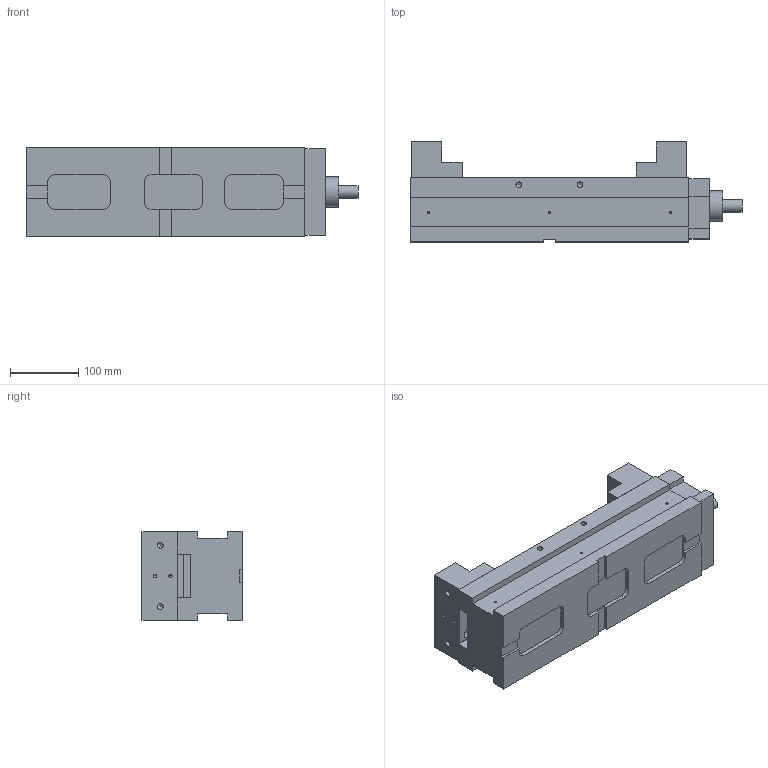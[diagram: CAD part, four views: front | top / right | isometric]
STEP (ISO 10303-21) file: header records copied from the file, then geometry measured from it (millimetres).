
FILE_DESCRIPTION(('STEP AP214'), '1');
FILE_NAME('BB.VS.130.11.003 捘', '', ('UNSPECIFIED'), ('UNSPECIFIED'), 'ASCON STEP Converter 1.6', 'ASCON Math Kernel', '');
FILE_SCHEMA(('AUTOMOTIVE_DESIGN { 1 0 10303 214 3 1 1}'));
Length unit declared in the file: millimetre
Products named in the file (3): BB.VS.130.11.003 捘; BB.VS.130.21.030/002; BB.VS.130.11.003.01
Assembly tree (3 placements, depth 2):
  BB.VS.130.11.003 捘
    BB.VS.130.21.030/002  x2
    BB.VS.130.11.003.01
Bounding box: 488 x 147 x 131 mm (x, y, z)
Volume: 5232440.3 mm3; surface area: 365004.7 mm2
Topology: 3 solids, 3 shells, 184 faces, 468 edges, 304 vertices
Faces by surface type: plane 106, cylinder 56, cone 22
Full cylindrical faces by diameter (mm): 3.3 x6, 5 x8, 8.5 x8, 13 x8, 17.5 x4, 19 x1, 20 x8, 45 x1
Entity records: 6976 total; most frequent: CARTESIAN_POINT 2352, DIRECTION 666, ORIENTED_EDGE 620, EDGE_CURVE 310, VERTEX_POINT 226, LINE 226, VECTOR 226, AXIS2_PLACEMENT_3D 220
